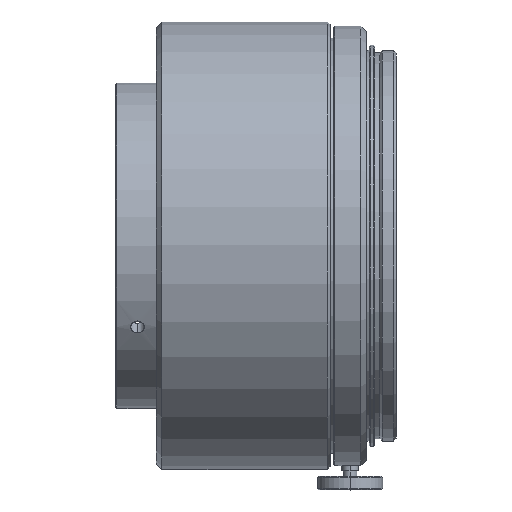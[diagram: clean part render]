
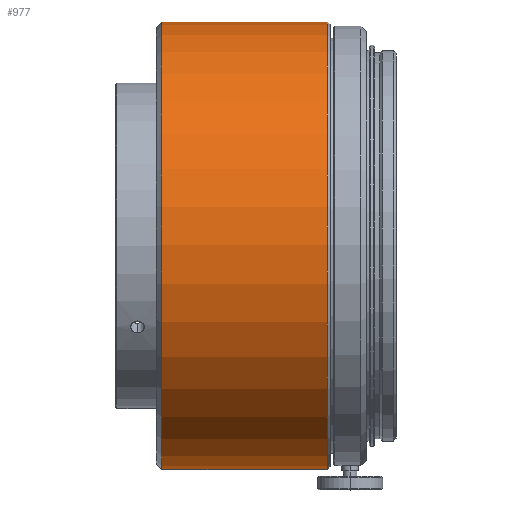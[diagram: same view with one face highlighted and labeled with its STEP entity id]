
A CAD part, top view. The second image highlights one B-rep face of the part: STEP entity #977.
In plain terms, the highlighted cylindrical face has radius 41.25 mm (diameter 82.5 mm), a partial arc.
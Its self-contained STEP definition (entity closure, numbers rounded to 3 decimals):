
#42 = DIRECTION ( 'NONE',  ( 0., -1., 0. ) ) ;
#110 = VERTEX_POINT ( 'NONE', #662 ) ;
#153 = CARTESIAN_POINT ( 'NONE',  ( -43.2, 0., 0. ) ) ;
#373 = DIRECTION ( 'NONE',  ( -1., 0., 0. ) ) ;
#402 = DIRECTION ( 'NONE',  ( -1., 0., 0. ) ) ;
#531 = EDGE_LOOP ( 'NONE', ( #2683, #1789, #1025, #1257 ) ) ;
#603 = CIRCLE ( 'NONE', #742, 41.25 ) ;
#636 = AXIS2_PLACEMENT_3D ( 'NONE', #856, #2391, #1072 ) ;
#662 = CARTESIAN_POINT ( 'NONE',  ( -12.7, 41.25, 0. ) ) ;
#719 = VECTOR ( 'NONE', #373, 1000. ) ;
#742 = AXIS2_PLACEMENT_3D ( 'NONE', #153, #1585, #42 ) ;
#783 = AXIS2_PLACEMENT_3D ( 'NONE', #847, #402, #1062 ) ;
#847 = CARTESIAN_POINT ( 'NONE',  ( -53.7, 0., 0. ) ) ;
#848 = DIRECTION ( 'NONE',  ( -1., 0., 0. ) ) ;
#856 = CARTESIAN_POINT ( 'NONE',  ( -12.7, 0., 0. ) ) ;
#881 = VERTEX_POINT ( 'NONE', #2771 ) ;
#977 = ADVANCED_FACE ( 'NONE', ( #1017 ), #2707, .T. ) ;
#986 = EDGE_CURVE ( 'NONE', #1240, #110, #1088, .T. ) ;
#1017 = FACE_OUTER_BOUND ( 'NONE', #531, .T. ) ;
#1025 = ORIENTED_EDGE ( 'NONE', *, *, #1203, .F. ) ;
#1062 = DIRECTION ( 'NONE',  ( 0., -1., 0. ) ) ;
#1072 = DIRECTION ( 'NONE',  ( 0., -1., 0. ) ) ;
#1085 = LINE ( 'NONE', #1275, #1667 ) ;
#1088 = CIRCLE ( 'NONE', #636, 41.25 ) ;
#1203 = EDGE_CURVE ( 'NONE', #1426, #881, #603, .T. ) ;
#1240 = VERTEX_POINT ( 'NONE', #2822 ) ;
#1257 = ORIENTED_EDGE ( 'NONE', *, *, #2815, .F. ) ;
#1275 = CARTESIAN_POINT ( 'NONE',  ( -53.7, -41.25, 0. ) ) ;
#1426 = VERTEX_POINT ( 'NONE', #1967 ) ;
#1585 = DIRECTION ( 'NONE',  ( -1., 0., 0. ) ) ;
#1667 = VECTOR ( 'NONE', #848, 1000. ) ;
#1789 = ORIENTED_EDGE ( 'NONE', *, *, #2728, .T. ) ;
#1880 = LINE ( 'NONE', #1917, #719 ) ;
#1917 = CARTESIAN_POINT ( 'NONE',  ( -53.7, 41.25, 0. ) ) ;
#1967 = CARTESIAN_POINT ( 'NONE',  ( -43.2, -41.25, 0. ) ) ;
#2391 = DIRECTION ( 'NONE',  ( -1., 0., 0. ) ) ;
#2683 = ORIENTED_EDGE ( 'NONE', *, *, #986, .T. ) ;
#2707 = CYLINDRICAL_SURFACE ( 'NONE', #783, 41.25 ) ;
#2728 = EDGE_CURVE ( 'NONE', #110, #881, #1880, .T. ) ;
#2771 = CARTESIAN_POINT ( 'NONE',  ( -43.2, 41.25, 0. ) ) ;
#2815 = EDGE_CURVE ( 'NONE', #1240, #1426, #1085, .T. ) ;
#2822 = CARTESIAN_POINT ( 'NONE',  ( -12.7, -41.25, 0. ) ) ;
